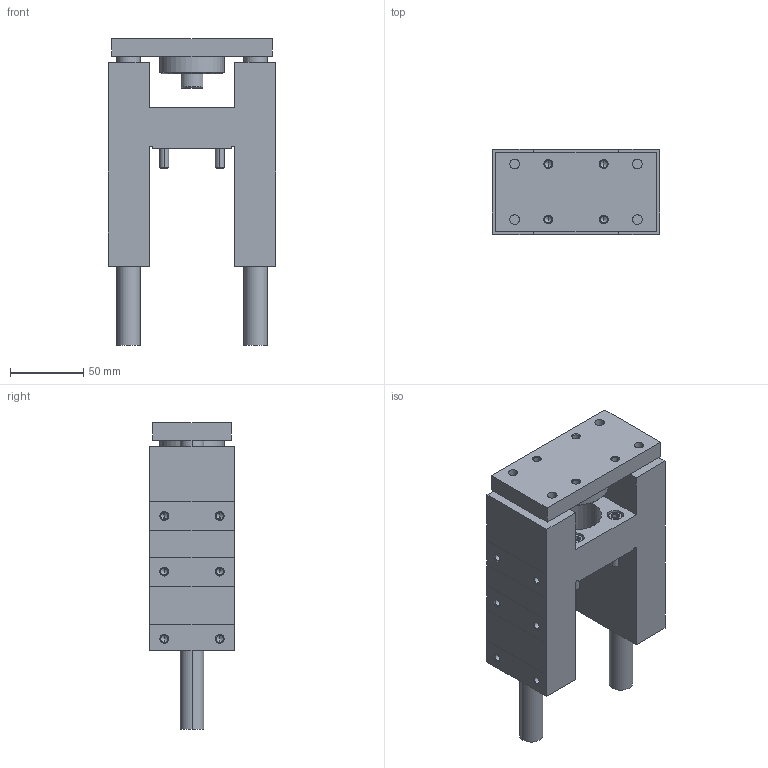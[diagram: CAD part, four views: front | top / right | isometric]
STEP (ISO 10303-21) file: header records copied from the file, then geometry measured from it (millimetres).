
FILE_DESCRIPTION (( 'STEP AP203' ), '1' );
FILE_NAME ('GB40-40.STEP', '2020-04-24T11:15:52', ( '' ), ( '' ), 'SwSTEP 2.0', 'SolidWorks 2019', '' );
FILE_SCHEMA (( 'CONFIG_CONTROL_DESIGN' ));
Length unit declared in the file: millimetre
Products named in the file (1): GB40-40
Bounding box: 115 x 58 x 210 mm (x, y, z)
Volume: 627695 mm3; surface area: 126494.1 mm2
Topology: 6 solids, 6 shells, 357 faces, 802 edges, 456 vertices
Faces by surface type: cone 142, plane 113, cylinder 102
Entity records: 10283 total; most frequent: CARTESIAN_POINT 2222, DIRECTION 1796, ORIENTED_EDGE 1532, EDGE_CURVE 766, AXIS2_PLACEMENT_3D 700, VERTEX_POINT 456, EDGE_LOOP 422, LINE 396
